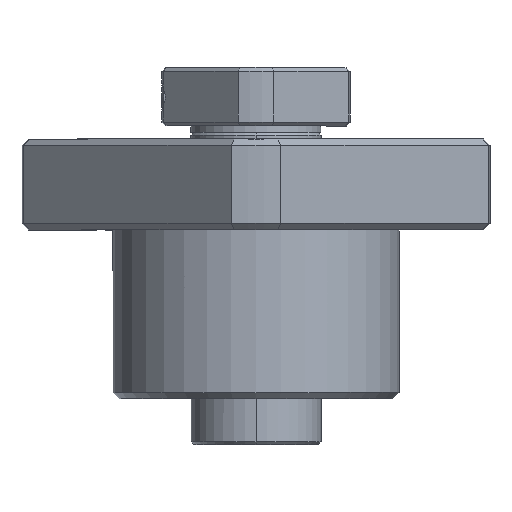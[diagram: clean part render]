
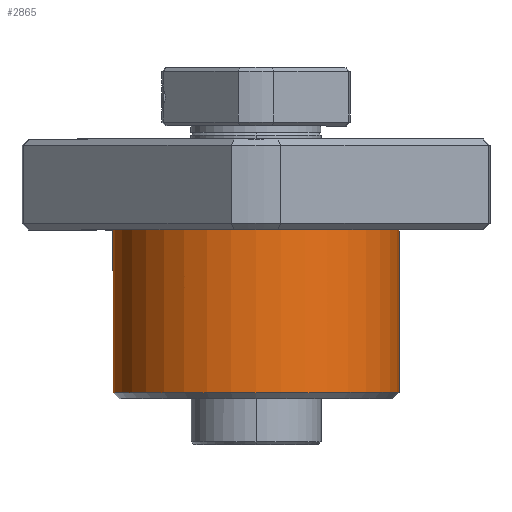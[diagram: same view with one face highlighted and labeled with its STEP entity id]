
A CAD part, left-side view. The second image highlights one B-rep face of the part: STEP entity #2865.
In plain terms, the highlighted cylindrical face has radius 11 mm (diameter 22 mm), a partial arc.
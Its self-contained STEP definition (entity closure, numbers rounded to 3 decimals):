
#436 = EDGE_CURVE ( 'NONE', #4366, #3943, #3128, .T. ) ;
#437 = EDGE_CURVE ( 'NONE', #4366, #3886, #860, .T. ) ;
#438 = EDGE_CURVE ( 'NONE', #3886, #4466, #3134, .T. ) ;
#517 = EDGE_CURVE ( 'NONE', #4466, #3943, #899, .T. ) ;
#860 = CIRCLE ( 'NONE', #5957, 11. ) ;
#899 = CIRCLE ( 'NONE', #6032, 11. ) ;
#1468 = CARTESIAN_POINT ( 'NONE',  ( 0., 11., 3. ) ) ;
#1524 = CARTESIAN_POINT ( 'NONE',  ( 0., -11., -9.5 ) ) ;
#1621 = CARTESIAN_POINT ( 'NONE',  ( 0., -11., 3. ) ) ;
#1721 = CARTESIAN_POINT ( 'NONE',  ( 0., 11., -9.5 ) ) ;
#2865 = ADVANCED_FACE ( 'NONE', ( #6400 ), #6401, .T. ) ;
#3118 = CARTESIAN_POINT ( 'NONE',  ( 0., 0., 3. ) ) ;
#3128 = LINE ( 'NONE', #3129, #5958 ) ;
#3129 = CARTESIAN_POINT ( 'NONE',  ( 0., -11., -10. ) ) ;
#3130 = DIRECTION ( 'NONE',  ( 0., 0., -1. ) ) ;
#3131 = DIRECTION ( 'NONE',  ( 0., 0., -1. ) ) ;
#3132 = DIRECTION ( 'NONE',  ( 0., -1., 0. ) ) ;
#3134 = LINE ( 'NONE', #3135, #5960 ) ;
#3135 = CARTESIAN_POINT ( 'NONE',  ( 0., 11., -10. ) ) ;
#3136 = DIRECTION ( 'NONE',  ( 0., 0., -1. ) ) ;
#3369 = CARTESIAN_POINT ( 'NONE',  ( 0., 0., -9.5 ) ) ;
#3376 = DIRECTION ( 'NONE',  ( 0., 0., 1. ) ) ;
#3377 = DIRECTION ( 'NONE',  ( 0., 1., 0. ) ) ;
#3585 = CARTESIAN_POINT ( 'NONE',  ( 0., 0., -10. ) ) ;
#3586 = DIRECTION ( 'NONE',  ( 0., 0., -1. ) ) ;
#3587 = DIRECTION ( 'NONE',  ( 0., -1., 0. ) ) ;
#3886 = VERTEX_POINT ( 'NONE', #1468 ) ;
#3943 = VERTEX_POINT ( 'NONE', #1524 ) ;
#4095 = EDGE_LOOP ( 'NONE', ( #4205, #4203, #4204, #4202 ) ) ;
#4202 = ORIENTED_EDGE ( 'NONE', *, *, #436, .F. ) ;
#4203 = ORIENTED_EDGE ( 'NONE', *, *, #438, .T. ) ;
#4204 = ORIENTED_EDGE ( 'NONE', *, *, #517, .T. ) ;
#4205 = ORIENTED_EDGE ( 'NONE', *, *, #437, .T. ) ;
#4366 = VERTEX_POINT ( 'NONE', #1621 ) ;
#4466 = VERTEX_POINT ( 'NONE', #1721 ) ;
#5957 = AXIS2_PLACEMENT_3D ( 'NONE', #3118, #3131, #3132 ) ;
#5958 = VECTOR ( 'NONE', #3130, 1000. ) ;
#5960 = VECTOR ( 'NONE', #3136, 1000. ) ;
#6032 = AXIS2_PLACEMENT_3D ( 'NONE', #3369, #3376, #3377 ) ;
#6400 = FACE_OUTER_BOUND ( 'NONE', #4095, .T. ) ;
#6401 = CYLINDRICAL_SURFACE ( 'NONE', #6403, 11. ) ;
#6403 = AXIS2_PLACEMENT_3D ( 'NONE', #3585, #3586, #3587 ) ;
